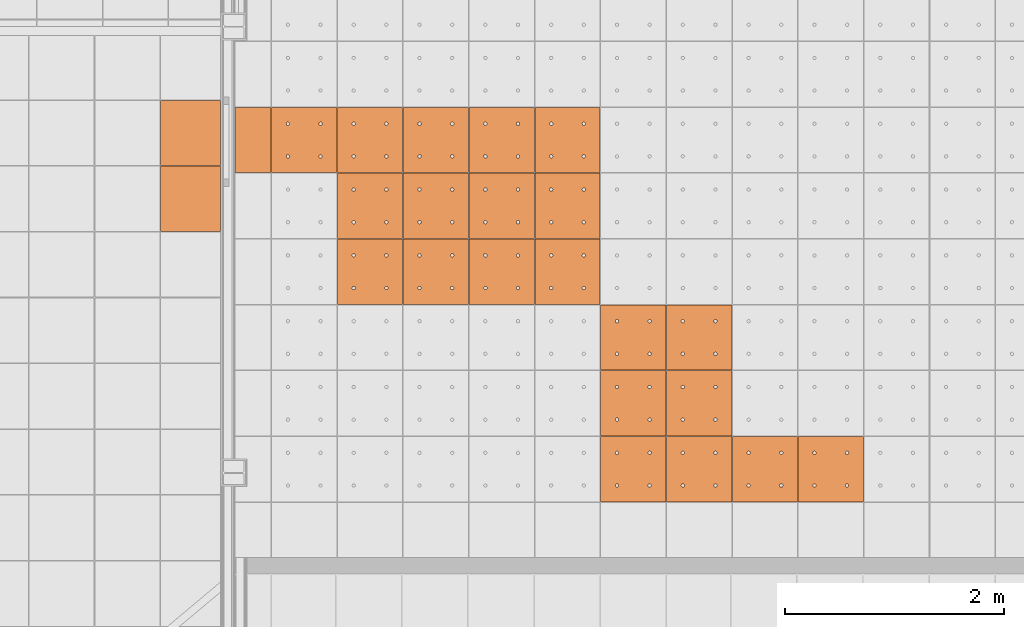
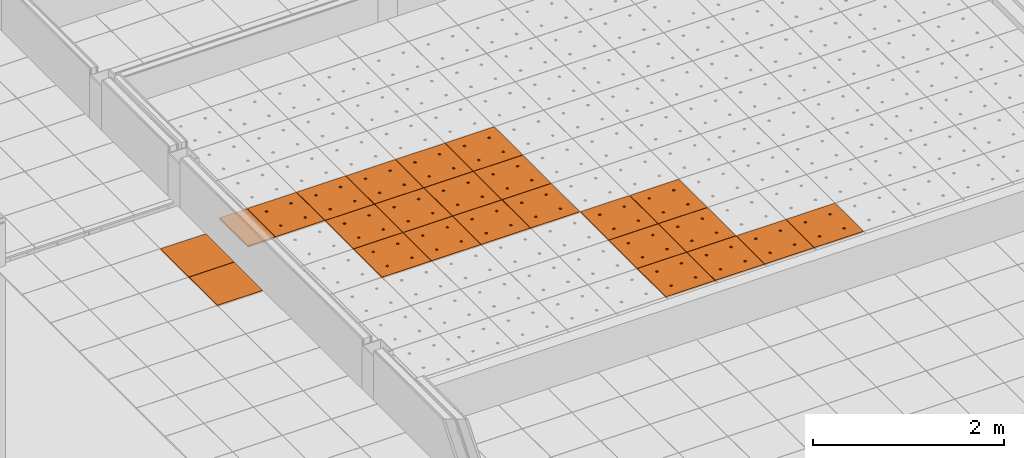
# One storey, part 221 of 338: 24 proxies, 2 elements without a shape of their own.
"""IFC2X3 building model written with IfcOpenShell, lengths in millimetres."""

from ifc_helpers import new_model, entity, si_unit, converted_unit, derived_unit, money_unit, direction, frame, origin_with_axes, place, context, subcontext, project, spatial, faceted_brep, source, transform, mapped, material, type_object, type_shapes, element, aggregate, save


model = new_model("IFC2X3")

# Units and contexts
model_context = context("Model", 3, precision=0.01, world=origin_with_axes(), true_north=direction((0.0, 1.0)))
plan_context = context("Plan", 3, precision=0.01, world=origin_with_axes(), true_north=direction((0.0, 1.0)))
body_context = subcontext(model_context, "Body", "Model", "MODEL_VIEW")
ifc_project = project(units=[si_unit("LENGTHUNIT", "METRE", prefix="MILLI"), si_unit("AREAUNIT", "SQUARE_METRE"), si_unit("VOLUMEUNIT", "CUBIC_METRE"), converted_unit("PLANEANGLEUNIT", "DEGREE", entity("IfcPlaneAngleMeasure", 0.0174532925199), si_unit("PLANEANGLEUNIT", "RADIAN"), dimensions=[0, 0, 0, 0, 0, 0, 0]), money_unit("EUR"), converted_unit("TIMEUNIT", "Year", entity("IfcTimeMeasure", 31556926.0), si_unit("TIMEUNIT", "SECOND"), dimensions=[0, 0, 1, 0, 0, 0, 0]), si_unit("MASSUNIT", "GRAM", prefix="KILO"), si_unit("THERMODYNAMICTEMPERATUREUNIT", "DEGREE_CELSIUS"), si_unit("LUMINOUSINTENSITYUNIT", "LUMEN"), si_unit("ENERGYUNIT", "JOULE", prefix="MEGA"), derived_unit("THERMALCONDUCTANCEUNIT", [(si_unit("POWERUNIT", "WATT"), 1), (si_unit("LENGTHUNIT", "METRE"), -1), (si_unit("THERMODYNAMICTEMPERATUREUNIT", "KELVIN"), -1)]), derived_unit("SPECIFICHEATCAPACITYUNIT", [(si_unit("ENERGYUNIT", "JOULE"), 1), (si_unit("MASSUNIT", "GRAM", prefix="KILO"), -1), (si_unit("THERMODYNAMICTEMPERATUREUNIT", "KELVIN"), -1)]), derived_unit("MASSDENSITYUNIT", [(si_unit("MASSUNIT", "GRAM", prefix="KILO"), 1), (si_unit("VOLUMEUNIT", "CUBIC_METRE"), -1)])], contexts=[model_context, plan_context])

# Site, building, storey
site_placement = place(None, origin_with_axes())
site = spatial("IfcSite", under=ifc_project, at=site_placement, Name="Fortuinstraat Woensdrecht", CompositionType="ELEMENT")
building_placement = place(site_placement, origin_with_axes())
building = spatial("IfcBuilding", under=site, at=building_placement, Name="IKC Fortuna", CompositionType="ELEMENT")
storey_placement = place(building_placement, origin_with_axes())
storey = spatial("IfcBuildingStorey", under=building, at=storey_placement, Name="00 begane grond", CompositionType="ELEMENT", Elevation=0.0)

# Covering, proxies
covering_type = type_object("IfcCoveringType", Name="Curtain Wall Type", PredefinedType="CEILING")
covering_1_placement = place(storey_placement, frame((31656.9226967, 15748.5304598, 3210.0), z_axis=(0.0, 0.0, 1.0), x_axis=(1.0, 0.0, 0.0)))
covering_1 = element("IfcCovering", 1, at=covering_1_placement, inside=storey, type_object=covering_type, Name="45_Plafondafwerking_P01", PredefinedType="CEILING")
ifc_material = material(Name="Gipsplaat")
building_element_proxy_type_1 = type_object("IfcBuildingElementProxyType", Name="Main Panel 600 x 600 x 20", PredefinedType="NOTDEFINED")
shared_shape_1 = source(origin_with_axes(), body_context, "Body", "Brep", [
    faceted_brep([(2.49999999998, 2.49999999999, -10.0), (300.0, 2.49999999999, -10.0), (300.0, 2.49999999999, 10.0), (2.49999999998, 2.49999999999, 10.0), (2.49999999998, 300.0, -10.0), (2.49999999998, 597.5, -10.0), (300.0, 597.5, -10.0), (597.5, 597.5, -10.0), (597.5, 300.0, -10.0), (597.5, 2.49999999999, -10.0), (166.25, 450.06232995, -10.0), (165.79423259, 452.64711538, -10.0), (164.896546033, 455.11348892, -10.0), (163.58421608, 457.38651108, -10.0), (161.897117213, 459.39711721, -10.0), (159.886511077, 461.08421608, -10.0), (157.613488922, 462.39654603, -10.0), (155.147115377, 463.29423259, -10.0), (152.562329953, 463.75, -10.0), (149.937670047, 463.75, -10.0), (147.352884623, 463.29423259, -10.0), (144.886511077, 462.39654603, -10.0), (142.613488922, 461.08421608, -10.0), (140.602882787, 459.39711721, -10.0), (138.91578392, 457.38651108, -10.0), (137.603453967, 455.11348892, -10.0), (136.705767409, 452.64711538, -10.0), (136.25, 450.06232995, -10.0), (136.25, 448.75, -10.0), (136.25, 447.43767005, -10.0), (136.705767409, 444.85288462, -10.0), (137.603453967, 442.38651108, -10.0), (138.91578392, 440.11348892, -10.0), (140.602882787, 438.10288279, -10.0), (142.613488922, 436.41578392, -10.0), (144.886511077, 435.10345397, -10.0), (147.352884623, 434.20576741, -10.0), (149.937670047, 433.75, -10.0), (152.562329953, 433.75, -10.0), (155.147115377, 434.20576741, -10.0), (157.613488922, 435.10345397, -10.0), (159.886511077, 436.41578392, -10.0), (161.897117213, 438.10288279, -10.0), (163.58421608, 440.11348892, -10.0), (164.896546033, 442.38651108, -10.0), (165.79423259, 444.85288462, -10.0), (166.25, 447.43767005, -10.0), (463.75, 450.06232995, -10.0), (463.29423259, 452.64711538, -10.0), (462.396546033, 455.11348892, -10.0), (461.08421608, 457.38651108, -10.0), (459.397117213, 459.39711721, -10.0), (457.386511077, 461.08421608, -10.0), (455.113488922, 462.39654603, -10.0), (452.647115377, 463.29423259, -10.0), (450.062329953, 463.75, -10.0), (447.437670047, 463.75, -10.0), (444.852884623, 463.29423259, -10.0), (442.386511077, 462.39654603, -10.0), (440.113488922, 461.08421608, -10.0), (438.102882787, 459.39711721, -10.0), (436.41578392, 457.38651108, -10.0), (435.103453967, 455.11348892, -10.0), (434.205767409, 452.64711538, -10.0), (433.75, 450.06232995, -10.0), (433.75, 448.75, -10.0), (433.75, 447.43767005, -10.0), (434.205767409, 444.85288462, -10.0), (435.103453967, 442.38651108, -10.0), (436.41578392, 440.11348892, -10.0), (438.102882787, 438.10288279, -10.0), (440.113488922, 436.41578392, -10.0), (442.386511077, 435.10345397, -10.0), (444.852884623, 434.20576741, -10.0), (447.437670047, 433.75, -10.0), (450.062329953, 433.75, -10.0), (452.647115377, 434.20576741, -10.0), (455.113488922, 435.10345397, -10.0), (457.386511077, 436.41578392, -10.0), (459.397117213, 438.10288279, -10.0), (461.08421608, 440.11348892, -10.0), (462.396546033, 442.38651108, -10.0), (463.29423259, 444.85288462, -10.0), (463.75, 447.43767005, -10.0), (463.75, 152.56232995, -10.0), (463.29423259, 155.14711538, -10.0), (462.396546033, 157.61348892, -10.0), (461.08421608, 159.88651108, -10.0), (459.397117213, 161.89711721, -10.0), (457.386511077, 163.58421608, -10.0), (455.113488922, 164.89654603, -10.0), (452.647115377, 165.79423259, -10.0), (450.062329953, 166.25, -10.0), (447.437670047, 166.25, -10.0), (444.852884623, 165.79423259, -10.0), (442.386511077, 164.89654603, -10.0), (440.113488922, 163.58421608, -10.0), (438.102882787, 161.89711721, -10.0), (436.41578392, 159.88651108, -10.0), (435.103453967, 157.61348892, -10.0), (434.205767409, 155.14711538, -10.0), (433.75, 152.56232995, -10.0), (433.75, 151.25, -10.0), (433.75, 149.93767005, -10.0), (434.205767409, 147.35288462, -10.0), (435.103453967, 144.88651108, -10.0), (436.41578392, 142.61348892, -10.0), (438.102882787, 140.60288279, -10.0), (440.113488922, 138.91578392, -10.0), (442.386511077, 137.60345397, -10.0), (444.852884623, 136.70576741, -10.0), (447.437670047, 136.25, -10.0), (450.062329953, 136.25, -10.0), (452.647115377, 136.70576741, -10.0), (455.113488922, 137.60345397, -10.0), (457.386511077, 138.91578392, -10.0), (459.397117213, 140.60288279, -10.0), (461.08421608, 142.61348892, -10.0), (462.396546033, 144.88651108, -10.0), (463.29423259, 147.35288462, -10.0), (463.75, 149.93767005, -10.0), (166.25, 152.56232995, -10.0), (165.79423259, 155.14711538, -10.0), (164.896546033, 157.61348892, -10.0), (163.58421608, 159.88651108, -10.0), (161.897117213, 161.89711721, -10.0), (159.886511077, 163.58421608, -10.0), (157.613488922, 164.89654603, -10.0), (155.147115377, 165.79423259, -10.0), (152.562329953, 166.25, -10.0), (149.937670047, 166.25, -10.0), (147.352884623, 165.79423259, -10.0), (144.886511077, 164.89654603, -10.0), (142.613488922, 163.58421608, -10.0), (140.602882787, 161.89711721, -10.0), (138.91578392, 159.88651108, -10.0), (137.603453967, 157.61348892, -10.0), (136.705767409, 155.14711538, -10.0), (136.25, 152.56232995, -10.0), (136.25, 151.25, -10.0), (136.25, 149.93767005, -10.0), (136.705767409, 147.35288462, -10.0), (137.603453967, 144.88651108, -10.0), (138.91578392, 142.61348892, -10.0), (140.602882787, 140.60288279, -10.0), (142.613488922, 138.91578392, -10.0), (144.886511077, 137.60345397, -10.0), (147.352884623, 136.70576741, -10.0), (149.937670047, 136.25, -10.0), (152.562329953, 136.25, -10.0), (155.147115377, 136.70576741, -10.0), (157.613488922, 137.60345397, -10.0), (159.886511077, 138.91578392, -10.0), (161.897117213, 140.60288279, -10.0), (163.58421608, 142.61348892, -10.0), (164.896546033, 144.88651108, -10.0), (165.79423259, 147.35288462, -10.0), (166.25, 149.93767005, -10.0), (597.5, 2.49999999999, 10.0), (597.5, 300.0, 10.0), (597.5, 597.5, 10.0), (300.0, 597.5, 10.0), (2.49999999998, 597.5, 10.0), (2.49999999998, 300.0, 10.0), (166.25, 450.06232995, 10.0), (166.25, 447.43767005, 10.0), (165.79423259, 444.85288462, 10.0), (164.896546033, 442.38651108, 10.0), (163.58421608, 440.11348892, 10.0), (161.897117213, 438.10288279, 10.0), (159.886511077, 436.41578392, 10.0), (157.613488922, 435.10345397, 10.0), (155.147115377, 434.20576741, 10.0), (152.562329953, 433.75, 10.0), (149.937670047, 433.75, 10.0), (147.352884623, 434.20576741, 10.0), (144.886511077, 435.10345397, 10.0), (142.613488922, 436.41578392, 10.0), (140.602882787, 438.10288279, 10.0), (138.91578392, 440.11348892, 10.0), (137.603453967, 442.38651108, 10.0), (136.705767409, 444.85288462, 10.0), (136.25, 447.43767005, 10.0), (136.25, 448.75, 10.0), (136.25, 450.06232995, 10.0), (136.705767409, 452.64711538, 10.0), (137.603453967, 455.11348892, 10.0), (138.91578392, 457.38651108, 10.0), (140.602882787, 459.39711721, 10.0), (142.613488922, 461.08421608, 10.0), (144.886511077, 462.39654603, 10.0), (147.352884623, 463.29423259, 10.0), (149.937670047, 463.75, 10.0), (152.562329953, 463.75, 10.0), (155.147115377, 463.29423259, 10.0), (157.613488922, 462.39654603, 10.0), (159.886511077, 461.08421608, 10.0), (161.897117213, 459.39711721, 10.0), (163.58421608, 457.38651108, 10.0), (164.896546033, 455.11348892, 10.0), (165.79423259, 452.64711538, 10.0), (463.75, 450.06232995, 10.0), (463.75, 447.43767005, 10.0), (463.29423259, 444.85288462, 10.0), (462.396546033, 442.38651108, 10.0), (461.08421608, 440.11348892, 10.0), (459.397117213, 438.10288279, 10.0), (457.386511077, 436.41578392, 10.0), (455.113488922, 435.10345397, 10.0), (452.647115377, 434.20576741, 10.0), (450.062329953, 433.75, 10.0), (447.437670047, 433.75, 10.0), (444.852884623, 434.20576741, 10.0), (442.386511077, 435.10345397, 10.0), (440.113488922, 436.41578392, 10.0), (438.102882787, 438.10288279, 10.0), (436.41578392, 440.11348892, 10.0), (435.103453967, 442.38651108, 10.0), (434.205767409, 444.85288462, 10.0), (433.75, 447.43767005, 10.0), (433.75, 448.75, 10.0), (433.75, 450.06232995, 10.0), (434.205767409, 452.64711538, 10.0), (435.103453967, 455.11348892, 10.0), (436.41578392, 457.38651108, 10.0), (438.102882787, 459.39711721, 10.0), (440.113488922, 461.08421608, 10.0), (442.386511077, 462.39654603, 10.0), (444.852884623, 463.29423259, 10.0), (447.437670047, 463.75, 10.0), (450.062329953, 463.75, 10.0), (452.647115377, 463.29423259, 10.0), (455.113488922, 462.39654603, 10.0), (457.386511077, 461.08421608, 10.0), (459.397117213, 459.39711721, 10.0), (461.08421608, 457.38651108, 10.0), (462.396546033, 455.11348892, 10.0), (463.29423259, 452.64711538, 10.0), (463.75, 152.56232995, 10.0), (463.75, 149.93767005, 10.0), (463.29423259, 147.35288462, 10.0), (462.396546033, 144.88651108, 10.0), (461.08421608, 142.61348892, 10.0), (459.397117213, 140.60288279, 10.0), (457.386511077, 138.91578392, 10.0), (455.113488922, 137.60345397, 10.0), (452.647115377, 136.70576741, 10.0), (450.062329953, 136.25, 10.0), (447.437670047, 136.25, 10.0), (444.852884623, 136.70576741, 10.0), (442.386511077, 137.60345397, 10.0), (440.113488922, 138.91578392, 10.0), (438.102882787, 140.60288279, 10.0), (436.41578392, 142.61348892, 10.0), (435.103453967, 144.88651108, 10.0), (434.205767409, 147.35288462, 10.0), (433.75, 149.93767005, 10.0), (433.75, 151.25, 10.0), (433.75, 152.56232995, 10.0), (434.205767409, 155.14711538, 10.0), (435.103453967, 157.61348892, 10.0), (436.41578392, 159.88651108, 10.0), (438.102882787, 161.89711721, 10.0), (440.113488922, 163.58421608, 10.0), (442.386511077, 164.89654603, 10.0), (444.852884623, 165.79423259, 10.0), (447.437670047, 166.25, 10.0), (450.062329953, 166.25, 10.0), (452.647115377, 165.79423259, 10.0), (455.113488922, 164.89654603, 10.0), (457.386511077, 163.58421608, 10.0), (459.397117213, 161.89711721, 10.0), (461.08421608, 159.88651108, 10.0), (462.396546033, 157.61348892, 10.0), (463.29423259, 155.14711538, 10.0), (166.25, 152.56232995, 10.0), (166.25, 149.93767005, 10.0), (165.79423259, 147.35288462, 10.0), (164.896546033, 144.88651108, 10.0), (163.58421608, 142.61348892, 10.0), (161.897117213, 140.60288279, 10.0), (159.886511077, 138.91578392, 10.0), (157.613488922, 137.60345397, 10.0), (155.147115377, 136.70576741, 10.0), (152.562329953, 136.25, 10.0), (149.937670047, 136.25, 10.0), (147.352884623, 136.70576741, 10.0), (144.886511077, 137.60345397, 10.0), (142.613488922, 138.91578392, 10.0), (140.602882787, 140.60288279, 10.0), (138.91578392, 142.61348892, 10.0), (137.603453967, 144.88651108, 10.0), (136.705767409, 147.35288462, 10.0), (136.25, 149.93767005, 10.0), (136.25, 151.25, 10.0), (136.25, 152.56232995, 10.0), (136.705767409, 155.14711538, 10.0), (137.603453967, 157.61348892, 10.0), (138.91578392, 159.88651108, 10.0), (140.602882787, 161.89711721, 10.0), (142.613488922, 163.58421608, 10.0), (144.886511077, 164.89654603, 10.0), (147.352884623, 165.79423259, 10.0), (149.937670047, 166.25, 10.0), (152.562329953, 166.25, 10.0), (155.147115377, 165.79423259, 10.0), (157.613488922, 164.89654603, 10.0), (159.886511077, 163.58421608, 10.0), (161.897117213, 161.89711721, 10.0), (163.58421608, 159.88651108, 10.0), (164.896546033, 157.61348892, 10.0), (165.79423259, 155.14711538, 10.0)], [[[0, 1, 2, 3]], [[0, 4, 5, 6, 7, 8, 9, 1], [10, 11, 12, 13, 14, 15, 16, 17, 18, 19, 20, 21, 22, 23, 24, 25, 26, 27, 28, 29, 30, 31, 32, 33, 34, 35, 36, 37, 38, 39, 40, 41, 42, 43, 44, 45, 46], [47, 48, 49, 50, 51, 52, 53, 54, 55, 56, 57, 58, 59, 60, 61, 62, 63, 64, 65, 66, 67, 68, 69, 70, 71, 72, 73, 74, 75, 76, 77, 78, 79, 80, 81, 82, 83], [84, 85, 86, 87, 88, 89, 90, 91, 92, 93, 94, 95, 96, 97, 98, 99, 100, 101, 102, 103, 104, 105, 106, 107, 108, 109, 110, 111, 112, 113, 114, 115, 116, 117, 118, 119, 120], [121, 122, 123, 124, 125, 126, 127, 128, 129, 130, 131, 132, 133, 134, 135, 136, 137, 138, 139, 140, 141, 142, 143, 144, 145, 146, 147, 148, 149, 150, 151, 152, 153, 154, 155, 156, 157]], [[1, 9, 158, 2]], [[3, 2, 158, 159, 160, 161, 162, 163], [164, 165, 166, 167, 168, 169, 170, 171, 172, 173, 174, 175, 176, 177, 178, 179, 180, 181, 182, 183, 184, 185, 186, 187, 188, 189, 190, 191, 192, 193, 194, 195, 196, 197, 198, 199, 200], [201, 202, 203, 204, 205, 206, 207, 208, 209, 210, 211, 212, 213, 214, 215, 216, 217, 218, 219, 220, 221, 222, 223, 224, 225, 226, 227, 228, 229, 230, 231, 232, 233, 234, 235, 236, 237], [238, 239, 240, 241, 242, 243, 244, 245, 246, 247, 248, 249, 250, 251, 252, 253, 254, 255, 256, 257, 258, 259, 260, 261, 262, 263, 264, 265, 266, 267, 268, 269, 270, 271, 272, 273, 274], [275, 276, 277, 278, 279, 280, 281, 282, 283, 284, 285, 286, 287, 288, 289, 290, 291, 292, 293, 294, 295, 296, 297, 298, 299, 300, 301, 302, 303, 304, 305, 306, 307, 308, 309, 310, 311]], [[4, 0, 3, 163]], [[5, 4, 163, 162]], [[6, 5, 162, 161]], [[7, 6, 161, 160]], [[8, 7, 160, 159]], [[9, 8, 159, 158]], [[11, 10, 164, 200]], [[12, 11, 200, 199]], [[13, 12, 199, 198]], [[14, 13, 198, 197]], [[15, 14, 197, 196]], [[16, 15, 196, 195]], [[17, 16, 195, 194]], [[18, 17, 194, 193]], [[19, 18, 193, 192]], [[20, 19, 192, 191]], [[21, 20, 191, 190]], [[22, 21, 190, 189]], [[23, 22, 189, 188]], [[24, 23, 188, 187]], [[25, 24, 187, 186]], [[26, 25, 186, 185]], [[27, 26, 185, 184]], [[28, 27, 184, 183]], [[29, 28, 183, 182]], [[30, 29, 182, 181]], [[31, 30, 181, 180]], [[32, 31, 180, 179]], [[33, 32, 179, 178]], [[34, 33, 178, 177]], [[35, 34, 177, 176]], [[36, 35, 176, 175]], [[37, 36, 175, 174]], [[38, 37, 174, 173]], [[39, 38, 173, 172]], [[40, 39, 172, 171]], [[41, 40, 171, 170]], [[42, 41, 170, 169]], [[43, 42, 169, 168]], [[44, 43, 168, 167]], [[45, 44, 167, 166]], [[46, 45, 166, 165]], [[10, 46, 165, 164]], [[48, 47, 201, 237]], [[49, 48, 237, 236]], [[50, 49, 236, 235]], [[51, 50, 235, 234]], [[52, 51, 234, 233]], [[53, 52, 233, 232]], [[54, 53, 232, 231]], [[55, 54, 231, 230]], [[56, 55, 230, 229]], [[57, 56, 229, 228]], [[58, 57, 228, 227]], [[59, 58, 227, 226]], [[60, 59, 226, 225]], [[61, 60, 225, 224]], [[62, 61, 224, 223]], [[63, 62, 223, 222]], [[64, 63, 222, 221]], [[65, 64, 221, 220]], [[66, 65, 220, 219]], [[67, 66, 219, 218]], [[68, 67, 218, 217]], [[69, 68, 217, 216]], [[70, 69, 216, 215]], [[71, 70, 215, 214]], [[72, 71, 214, 213]], [[73, 72, 213, 212]], [[74, 73, 212, 211]], [[75, 74, 211, 210]], [[76, 75, 210, 209]], [[77, 76, 209, 208]], [[78, 77, 208, 207]], [[79, 78, 207, 206]], [[80, 79, 206, 205]], [[81, 80, 205, 204]], [[82, 81, 204, 203]], [[83, 82, 203, 202]], [[47, 83, 202, 201]], [[85, 84, 238, 274]], [[86, 85, 274, 273]], [[87, 86, 273, 272]], [[88, 87, 272, 271]], [[89, 88, 271, 270]], [[90, 89, 270, 269]], [[91, 90, 269, 268]], [[92, 91, 268, 267]], [[93, 92, 267, 266]], [[94, 93, 266, 265]], [[95, 94, 265, 264]], [[96, 95, 264, 263]], [[97, 96, 263, 262]], [[98, 97, 262, 261]], [[99, 98, 261, 260]], [[100, 99, 260, 259]], [[101, 100, 259, 258]], [[102, 101, 258, 257]], [[103, 102, 257, 256]], [[104, 103, 256, 255]], [[105, 104, 255, 254]], [[106, 105, 254, 253]], [[107, 106, 253, 252]], [[108, 107, 252, 251]], [[109, 108, 251, 250]], [[110, 109, 250, 249]], [[111, 110, 249, 248]], [[112, 111, 248, 247]], [[113, 112, 247, 246]], [[114, 113, 246, 245]], [[115, 114, 245, 244]], [[116, 115, 244, 243]], [[117, 116, 243, 242]], [[118, 117, 242, 241]], [[119, 118, 241, 240]], [[120, 119, 240, 239]], [[84, 120, 239, 238]], [[122, 121, 275, 311]], [[123, 122, 311, 310]], [[124, 123, 310, 309]], [[125, 124, 309, 308]], [[126, 125, 308, 307]], [[127, 126, 307, 306]], [[128, 127, 306, 305]], [[129, 128, 305, 304]], [[130, 129, 304, 303]], [[131, 130, 303, 302]], [[132, 131, 302, 301]], [[133, 132, 301, 300]], [[134, 133, 300, 299]], [[135, 134, 299, 298]], [[136, 135, 298, 297]], [[137, 136, 297, 296]], [[138, 137, 296, 295]], [[139, 138, 295, 294]], [[140, 139, 294, 293]], [[141, 140, 293, 292]], [[142, 141, 292, 291]], [[143, 142, 291, 290]], [[144, 143, 290, 289]], [[145, 144, 289, 288]], [[146, 145, 288, 287]], [[147, 146, 287, 286]], [[148, 147, 286, 285]], [[149, 148, 285, 284]], [[150, 149, 284, 283]], [[151, 150, 283, 282]], [[152, 151, 282, 281]], [[153, 152, 281, 280]], [[154, 153, 280, 279]], [[155, 154, 279, 278]], [[156, 155, 278, 277]], [[157, 156, 277, 276]], [[121, 157, 276, 275]]]),
])
type_shapes(building_element_proxy_type_1, [shared_shape_1])
proxy_1_placement = place(covering_1_placement, frame((-4200.0, -1800.0, 2.34035013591e-10), z_axis=(0.0, 0.0, 1.0), x_axis=(1.0, 0.0, 0.0)))
proxy_1 = element("IfcBuildingElementProxy", 2, at=proxy_1_placement, type_object=building_element_proxy_type_1, material=ifc_material, Name="__600x612 Rockfon Krios", context=body_context, shape_type="MappedRepresentation", body=[
    mapped(shared_shape_1, transform((300.0, 300.0, 0.0), x_axis=(-1.0, 0.0, 0.0), y_axis=(0.0, -1.0, 0.0), z_axis=(0.0, 0.0, 1.0))),
])
proxy_2_placement = place(covering_1_placement, frame((-4200.0, -1200.0, 2.34035013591e-10), z_axis=(0.0, 0.0, 1.0), x_axis=(1.0, 0.0, 0.0)))
proxy_2 = element("IfcBuildingElementProxy", 3, at=proxy_2_placement, type_object=building_element_proxy_type_1, material=ifc_material, Name="__600x614 Rockfon Krios", context=body_context, shape_type="MappedRepresentation", body=[
    mapped(shared_shape_1, transform((300.0, 300.0, 0.0), x_axis=(-1.0, 0.0, 0.0), y_axis=(0.0, -1.0, 0.0), z_axis=(0.0, 0.0, 1.0))),
])
proxy_3_placement = place(covering_1_placement, frame((-4200.0, -600.0, 2.34035013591e-10), z_axis=(0.0, 0.0, 1.0), x_axis=(1.0, 0.0, 0.0)))
proxy_3 = element("IfcBuildingElementProxy", 4, at=proxy_3_placement, type_object=building_element_proxy_type_1, material=ifc_material, Name="__600x622 Rockfon Krios", context=body_context, shape_type="MappedRepresentation", body=[
    mapped(shared_shape_1, transform((300.0, 300.0, 0.0), x_axis=(-1.0, 0.0, 0.0), y_axis=(0.0, -1.0, 0.0), z_axis=(0.0, 0.0, 1.0))),
])
proxy_4_placement = place(covering_1_placement, frame((-3600.0, -1800.0, 2.14495088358e-10), z_axis=(0.0, 0.0, 1.0), x_axis=(1.0, 0.0, 0.0)))
proxy_4 = element("IfcBuildingElementProxy", 5, at=proxy_4_placement, type_object=building_element_proxy_type_1, material=ifc_material, Name="__600x662 Rockfon Krios", context=body_context, shape_type="MappedRepresentation", body=[
    mapped(shared_shape_1, transform((300.0, 300.0, 0.0), x_axis=(-1.0, 0.0, 0.0), y_axis=(0.0, -1.0, 0.0), z_axis=(0.0, 0.0, 1.0))),
])
proxy_5_placement = place(covering_1_placement, frame((-3600.0, -1200.0, 2.14495088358e-10), z_axis=(0.0, 0.0, 1.0), x_axis=(1.0, 0.0, 0.0)))
proxy_5 = element("IfcBuildingElementProxy", 6, at=proxy_5_placement, type_object=building_element_proxy_type_1, material=ifc_material, Name="__600x664 Rockfon Krios", context=body_context, shape_type="MappedRepresentation", body=[
    mapped(shared_shape_1, transform((300.0, 300.0, 0.0), x_axis=(-1.0, 0.0, 0.0), y_axis=(0.0, -1.0, 0.0), z_axis=(0.0, 0.0, 1.0))),
])
proxy_6_placement = place(covering_1_placement, frame((-3600.0, -600.0, 2.14495088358e-10), z_axis=(0.0, 0.0, 1.0), x_axis=(1.0, 0.0, 0.0)))
proxy_6 = element("IfcBuildingElementProxy", 7, at=proxy_6_placement, type_object=building_element_proxy_type_1, material=ifc_material, Name="__600x666 Rockfon Krios", context=body_context, shape_type="MappedRepresentation", body=[
    mapped(shared_shape_1, transform((300.0, 300.0, 0.0), x_axis=(-1.0, 0.0, 0.0), y_axis=(0.0, -1.0, 0.0), z_axis=(0.0, 0.0, 1.0))),
])
proxy_7_placement = place(covering_1_placement, frame((-5400.0, -600.0, 2.73114864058e-10), z_axis=(0.0, 0.0, 1.0), x_axis=(1.0, 0.0, 0.0)))
proxy_7 = element("IfcBuildingElementProxy", 8, at=proxy_7_placement, type_object=building_element_proxy_type_1, material=ifc_material, Name="__600x675 Rockfon Krios", context=body_context, shape_type="MappedRepresentation", body=[
    mapped(shared_shape_1, transform((300.0, 300.0, 0.0), x_axis=(-1.0, 0.0, 0.0), y_axis=(0.0, -1.0, 0.0), z_axis=(0.0, 0.0, 1.0))),
])
proxy_8_placement = place(covering_1_placement, frame((-3000.0, -1800.0, 1.94511073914e-10), z_axis=(0.0, 0.0, 1.0), x_axis=(1.0, 0.0, 0.0)))
proxy_8 = element("IfcBuildingElementProxy", 9, at=proxy_8_placement, type_object=building_element_proxy_type_1, material=ifc_material, Name="__600x679 Rockfon Krios", context=body_context, shape_type="MappedRepresentation", body=[
    mapped(shared_shape_1, transform((300.0, 300.0, 0.0), x_axis=(-1.0, 0.0, 0.0), y_axis=(0.0, -1.0, 0.0), z_axis=(0.0, 0.0, 1.0))),
])
proxy_9_placement = place(covering_1_placement, frame((-3000.0, -1200.0, 1.94511073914e-10), z_axis=(0.0, 0.0, 1.0), x_axis=(1.0, 0.0, 0.0)))
proxy_9 = element("IfcBuildingElementProxy", 10, at=proxy_9_placement, type_object=building_element_proxy_type_1, material=ifc_material, Name="__600x680 Rockfon Krios", context=body_context, shape_type="MappedRepresentation", body=[
    mapped(shared_shape_1, transform((300.0, 300.0, 0.0), x_axis=(-1.0, 0.0, 0.0), y_axis=(0.0, -1.0, 0.0), z_axis=(0.0, 0.0, 1.0))),
])
proxy_10_placement = place(covering_1_placement, frame((-3000.0, -600.0, 1.94511073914e-10), z_axis=(0.0, 0.0, 1.0), x_axis=(1.0, 0.0, 0.0)))
proxy_10 = element("IfcBuildingElementProxy", 11, at=proxy_10_placement, type_object=building_element_proxy_type_1, material=ifc_material, Name="__600x681 Rockfon Krios", context=body_context, shape_type="MappedRepresentation", body=[
    mapped(shared_shape_1, transform((300.0, 300.0, 0.0), x_axis=(-1.0, 0.0, 0.0), y_axis=(0.0, -1.0, 0.0), z_axis=(0.0, 0.0, 1.0))),
])
proxy_11_placement = place(covering_1_placement, frame((-2400.0, -3600.0, 1.74971148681e-10), z_axis=(0.0, 0.0, 1.0), x_axis=(1.0, 0.0, 0.0)))
proxy_11 = element("IfcBuildingElementProxy", 12, at=proxy_11_placement, type_object=building_element_proxy_type_1, material=ifc_material, Name="__600x694 Rockfon Krios", context=body_context, shape_type="MappedRepresentation", body=[
    mapped(shared_shape_1, transform((300.0, 300.0, 0.0), x_axis=(-1.0, 0.0, 0.0), y_axis=(0.0, -1.0, 0.0), z_axis=(0.0, 0.0, 1.0))),
])
proxy_12_placement = place(covering_1_placement, frame((-2400.0, -3000.0, 1.74971148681e-10), z_axis=(0.0, 0.0, 1.0), x_axis=(1.0, 0.0, 0.0)))
proxy_12 = element("IfcBuildingElementProxy", 13, at=proxy_12_placement, type_object=building_element_proxy_type_1, material=ifc_material, Name="__600x696 Rockfon Krios", context=body_context, shape_type="MappedRepresentation", body=[
    mapped(shared_shape_1, transform((300.0, 300.0, 0.0), x_axis=(-1.0, 0.0, 0.0), y_axis=(0.0, -1.0, 0.0), z_axis=(0.0, 0.0, 1.0))),
])
proxy_13_placement = place(covering_1_placement, frame((-2400.0, -2400.0, 1.74971148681e-10), z_axis=(0.0, 0.0, 1.0), x_axis=(1.0, 0.0, 0.0)))
proxy_13 = element("IfcBuildingElementProxy", 14, at=proxy_13_placement, type_object=building_element_proxy_type_1, material=ifc_material, Name="__600x699 Rockfon Krios", context=body_context, shape_type="MappedRepresentation", body=[
    mapped(shared_shape_1, transform((300.0, 300.0, 0.0), x_axis=(-1.0, 0.0, 0.0), y_axis=(0.0, -1.0, 0.0), z_axis=(0.0, 0.0, 1.0))),
])
proxy_14_placement = place(covering_1_placement, frame((-4800.0, -1200.0, 2.53574938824e-10), z_axis=(0.0, 0.0, 1.0), x_axis=(1.0, 0.0, 0.0)))
proxy_14 = element("IfcBuildingElementProxy", 15, at=proxy_14_placement, type_object=building_element_proxy_type_1, material=ifc_material, Name="__600x701 Rockfon Krios", context=body_context, shape_type="MappedRepresentation", body=[
    mapped(shared_shape_1, transform((300.0, 300.0, 0.0), x_axis=(-1.0, 0.0, 0.0), y_axis=(0.0, -1.0, 0.0), z_axis=(0.0, 0.0, 1.0))),
])
proxy_15_placement = place(covering_1_placement, frame((-4800.0, -600.0, 2.53574938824e-10), z_axis=(0.0, 0.0, 1.0), x_axis=(1.0, 0.0, 0.0)))
proxy_15 = element("IfcBuildingElementProxy", 16, at=proxy_15_placement, type_object=building_element_proxy_type_1, material=ifc_material, Name="__600x702 Rockfon Krios", context=body_context, shape_type="MappedRepresentation", body=[
    mapped(shared_shape_1, transform((300.0, 300.0, 0.0), x_axis=(-1.0, 0.0, 0.0), y_axis=(0.0, -1.0, 0.0), z_axis=(0.0, 0.0, 1.0))),
])
proxy_16_placement = place(covering_1_placement, frame((-4800.0, -1800.0, 2.53574938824e-10), z_axis=(0.0, 0.0, 1.0), x_axis=(1.0, 0.0, 0.0)))
proxy_16 = element("IfcBuildingElementProxy", 17, at=proxy_16_placement, type_object=building_element_proxy_type_1, material=ifc_material, Name="__600x723 Rockfon Krios", context=body_context, shape_type="MappedRepresentation", body=[
    mapped(shared_shape_1, transform((300.0, 300.0, 0.0), x_axis=(-1.0, 0.0, 0.0), y_axis=(0.0, -1.0, 0.0), z_axis=(0.0, 0.0, 1.0))),
])
proxy_17_placement = place(covering_1_placement, frame((-600.0, -3600.0, 1.15907283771e-10), z_axis=(0.0, 0.0, 1.0), x_axis=(1.0, 0.0, 0.0)))
proxy_17 = element("IfcBuildingElementProxy", 18, at=proxy_17_placement, type_object=building_element_proxy_type_1, material=ifc_material, Name="__600x745 Rockfon Krios", context=body_context, shape_type="MappedRepresentation", body=[
    mapped(shared_shape_1, transform((300.0, 300.0, 0.0), x_axis=(-1.0, 0.0, 0.0), y_axis=(0.0, -1.0, 0.0), z_axis=(0.0, 0.0, 1.0))),
])
proxy_18_placement = place(covering_1_placement, frame((-1200.0, -3600.0, 1.35891298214e-10), z_axis=(0.0, 0.0, 1.0), x_axis=(1.0, 0.0, 0.0)))
proxy_18 = element("IfcBuildingElementProxy", 19, at=proxy_18_placement, type_object=building_element_proxy_type_1, material=ifc_material, Name="__600x753 Rockfon Krios", context=body_context, shape_type="MappedRepresentation", body=[
    mapped(shared_shape_1, transform((300.0, 300.0, 0.0), x_axis=(-1.0, 0.0, 0.0), y_axis=(0.0, -1.0, 0.0), z_axis=(0.0, 0.0, 1.0))),
])
proxy_19_placement = place(covering_1_placement, frame((-1800.0, -2400.0, 1.55431223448e-10), z_axis=(0.0, 0.0, 1.0), x_axis=(1.0, 0.0, 0.0)))
proxy_19 = element("IfcBuildingElementProxy", 20, at=proxy_19_placement, type_object=building_element_proxy_type_1, material=ifc_material, Name="__600x759 Rockfon Krios", context=body_context, shape_type="MappedRepresentation", body=[
    mapped(shared_shape_1, transform((300.0, 300.0, 0.0), x_axis=(-1.0, 0.0, 0.0), y_axis=(0.0, -1.0, 0.0), z_axis=(0.0, 0.0, 1.0))),
])
proxy_20_placement = place(covering_1_placement, frame((-1800.0, -3000.0, 1.55431223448e-10), z_axis=(0.0, 0.0, 1.0), x_axis=(1.0, 0.0, 0.0)))
proxy_20 = element("IfcBuildingElementProxy", 21, at=proxy_20_placement, type_object=building_element_proxy_type_1, material=ifc_material, Name="__600x760 Rockfon Krios", context=body_context, shape_type="MappedRepresentation", body=[
    mapped(shared_shape_1, transform((300.0, 300.0, 0.0), x_axis=(-1.0, 0.0, 0.0), y_axis=(0.0, -1.0, 0.0), z_axis=(0.0, 0.0, 1.0))),
])
proxy_21_placement = place(covering_1_placement, frame((-1800.0, -3600.0, 1.55431223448e-10), z_axis=(0.0, 0.0, 1.0), x_axis=(1.0, 0.0, 0.0)))
proxy_21 = element("IfcBuildingElementProxy", 22, at=proxy_21_placement, type_object=building_element_proxy_type_1, material=ifc_material, Name="__600x761 Rockfon Krios", context=body_context, shape_type="MappedRepresentation", body=[
    mapped(shared_shape_1, transform((300.0, 300.0, 0.0), x_axis=(-1.0, 0.0, 0.0), y_axis=(0.0, -1.0, 0.0), z_axis=(0.0, 0.0, 1.0))),
])
building_element_proxy_type_2 = type_object("IfcBuildingElementProxyType", Name="334 x 600 x 20", PredefinedType="NOTDEFINED")
shared_shape_2 = source(origin_with_axes(), body_context, "Body", "Brep", [
    faceted_brep([(2.50000102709, 2.5, -10.0), (331.487662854, 2.49999999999, -10.0), (331.487662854, 2.49999999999, 10.0), (2.50000102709, 2.5, 10.0), (2.50000102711, 597.5, -10.0), (331.487662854, 597.5, -10.0), (331.487662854, 597.5, 10.0), (2.50000102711, 597.5, 10.0)], [[[0, 1, 2, 3]], [[0, 4, 5, 1]], [[1, 5, 6, 2]], [[3, 2, 6, 7]], [[4, 0, 3, 7]], [[5, 4, 7, 6]]]),
])
type_shapes(building_element_proxy_type_2, [shared_shape_2])
proxy_22_placement = place(covering_1_placement, frame((-5866.99383143, -600.0, 2.88213897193e-10), z_axis=(0.0, 0.0, 1.0), x_axis=(1.0, 0.0, 0.0)))
proxy_22 = element("IfcBuildingElementProxy", 23, at=proxy_22_placement, type_object=building_element_proxy_type_2, material=ifc_material, Name="__600x754 Rockfon Krios", context=body_context, shape_type="MappedRepresentation", body=[
    mapped(shared_shape_2, transform((166.993831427, 300.0, 0.0), x_axis=(-1.0, 0.0, 0.0), y_axis=(0.0, -1.0, 0.0), z_axis=(0.0, 0.0, 1.0))),
])
aggregate(covering_1, [proxy_1, proxy_2, proxy_3, proxy_4, proxy_5, proxy_6, proxy_7, proxy_8, proxy_9, proxy_10, proxy_11, proxy_12, proxy_13, proxy_14, proxy_15, proxy_16, proxy_17, proxy_18, proxy_22, proxy_19, proxy_20, proxy_21])

covering_2_placement = place(storey_placement, frame((23508.1808374, 14013.4616156, 3010.0), z_axis=(0.0, 0.0, 1.0), x_axis=(1.0, 0.0, 0.0)))
covering_2 = element("IfcCovering", 24, at=covering_2_placement, inside=storey, type_object=covering_type, Name="45_Plafondafwerking_P04", PredefinedType="CEILING")
building_element_proxy_type_3 = type_object("IfcBuildingElementProxyType", Name="Distinct Panel 553 x 600 x 20", PredefinedType="NOTDEFINED")
shared_shape_3 = source(origin_with_axes(), body_context, "Body", "Brep", [
    faceted_brep([(-2.49999914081, 2.5, -10.0), (-2.49999914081, 2.5, 10.0), (-550.508421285, 2.49999999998, 10.0), (-550.508421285, 2.49999999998, -10.0), (-2.49999914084, 597.5, -10.0), (-2.49999914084, 597.5, 10.0), (-550.508421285, 597.5, 10.0), (-550.508421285, 597.5, -10.0)], [[[0, 1, 2, 3]], [[4, 5, 1, 0]], [[1, 5, 6, 2]], [[3, 2, 6, 7]], [[0, 3, 7, 4]], [[7, 6, 5, 4]]]),
])
type_shapes(building_element_proxy_type_3, [shared_shape_3])
proxy_23_placement = place(covering_2_placement, frame((1713.24997513, 600.0, 1.22568621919e-10), z_axis=(0.0, 0.0, 1.0), x_axis=(1.0, 0.0, 0.0)))
proxy_23 = element("IfcBuildingElementProxy", 25, at=proxy_23_placement, type_object=building_element_proxy_type_3, material=ifc_material, Name="__Panel-D", context=body_context, shape_type="MappedRepresentation", body=[
    mapped(shared_shape_3, transform((-276.504210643, 300.0, 0.0), x_axis=(-1.0, 0.0, 0.0), y_axis=(0.0, -1.0, 0.0), z_axis=(0.0, 0.0, 1.0))),
])
proxy_24_placement = place(covering_2_placement, frame((1713.24997513, 1200.0, 1.22568621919e-10), z_axis=(0.0, 0.0, 1.0), x_axis=(1.0, 0.0, 0.0)))
proxy_24 = element("IfcBuildingElementProxy", 26, at=proxy_24_placement, type_object=building_element_proxy_type_3, material=ifc_material, Name="__Panel-D", context=body_context, shape_type="MappedRepresentation", body=[
    mapped(shared_shape_3, transform((-276.504210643, 300.0, 0.0), x_axis=(-1.0, 0.0, 0.0), y_axis=(0.0, -1.0, 0.0), z_axis=(0.0, 0.0, 1.0))),
])
aggregate(covering_2, [proxy_23, proxy_24])

save(model, "model.ifc")
